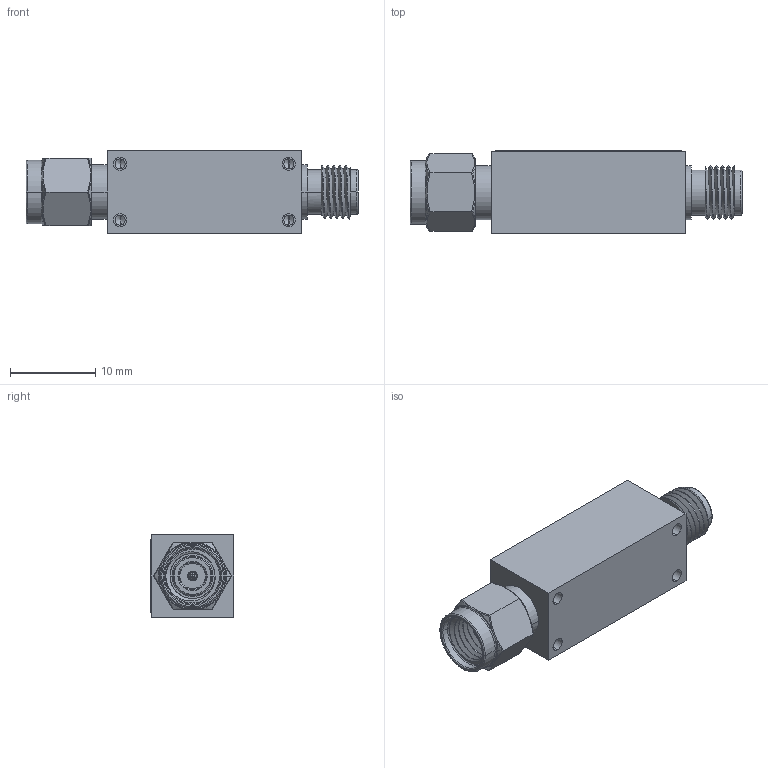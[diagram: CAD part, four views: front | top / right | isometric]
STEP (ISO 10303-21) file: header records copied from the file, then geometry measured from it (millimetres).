
FILE_DESCRIPTION (( 'STEP AP214' ), '1' );
FILE_NAME ('LM-20M18G-100W-15DBM-GOLD.STEP', '2026-07-27T17:47:19', ( '' ), ( '' ), 'SwSTEP 2.0', 'SolidWorks 2025', '' );
FILE_SCHEMA (( 'AUTOMOTIVE_DESIGN' ));
Length unit declared in the file: millimetre
Products named in the file (1): LM-20M18G-100W-15DBM-GOLD
Bounding box: 38.99 x 9.78 x 9.65 mm (x, y, z)
Volume: 2649.4 mm3; surface area: 2847.9 mm2
Topology: 13 solids, 14 shells, 1154 faces, 3797 edges, 2782 vertices
Faces by surface type: plane 414, cylinder 359, torus 246, cone 76, bspline 35, sphere 24
Entity records: 64371 total; most frequent: CARTESIAN_POINT 22167, ORIENTED_EDGE 7490, DIRECTION 6187, EDGE_CURVE 3745, VERTEX_POINT 2782, AXIS2_PLACEMENT_3D 2298, LINE 1591, VECTOR 1591
